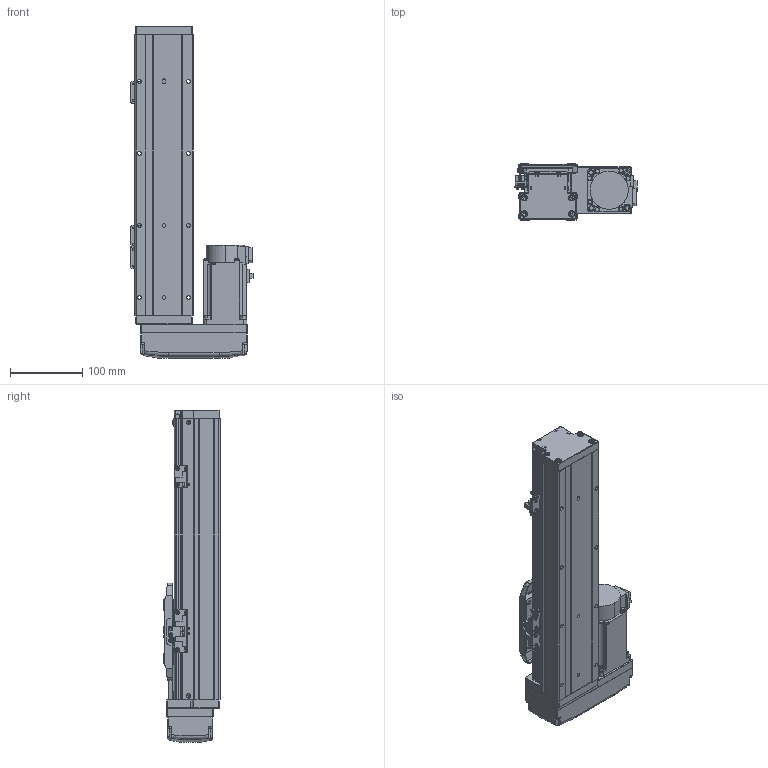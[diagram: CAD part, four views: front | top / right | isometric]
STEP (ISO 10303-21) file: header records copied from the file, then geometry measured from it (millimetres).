
FILE_DESCRIPTION (( 'STEP AP203' ), '1' );
FILE_NAME ('GTH8-200-BR-M20-C4.step', '2022-09-23T01:09:25', ( '微软用户' ), ( '微软中国' ), 'SwSTEP 2.0', 'SolidWorks 2020', '' );
FILE_SCHEMA (( 'CONFIG_CONTROL_DESIGN' ));
Length unit declared in the file: millimetre
Products named in the file (18): GTH8-200-BR-M20-C4; GTH80-013; GTH50-023; GBT 70.3-M3℅6; GBT96.1-2002 3×0.8; GTH80-022; BTH-M3X5X6; GTH80-001_200; GBT 70.1-M3℅6; hg-kn43j_-s100_; GTH80-003; GBT 70.1-M4×16; CTHA86-015-1_CTHA86-015-2; GTH80-004; GTH80-028; CTHA86-033_M40B; GTH80-006; GTH50-024
Assembly tree (57 placements, depth 2):
  GTH8-200-BR-M20-C4
    GTH80-001_200
    GTH80-003
    GTH80-004
    GTH80-006
    GTH80-013
    GBT 70.3-M3℅6  x4
    GTH80-022
    GBT 70.1-M3℅6  x14
    GBT 70.1-M4×16  x8
    GTH80-028  x2
    GTH50-024  x3
    GTH50-023  x3
    GBT96.1-2002 3×0.8  x6
    BTH-M3X5X6  x8
    hg-kn43j_-s100_
    CTHA86-015-1_CTHA86-015-2
    CTHA86-033_M40B
Bounding box: 169.7 x 78 x 461 mm (x, y, z)
Volume: 2681021.7 mm3; surface area: 329023.4 mm2
Topology: 59 solids, 59 shells, 2224 faces, 5127 edges, 3139 vertices
Faces by surface type: plane 1187, cylinder 595, cone 260, torus 166, bspline 8, sphere 8
Entity records: 40330 total; most frequent: CARTESIAN_POINT 7097, DIRECTION 6537, ORIENTED_EDGE 6072, EDGE_CURVE 3036, AXIS2_PLACEMENT_3D 2277, LINE 1983, VECTOR 1983, VERTEX_POINT 1914
